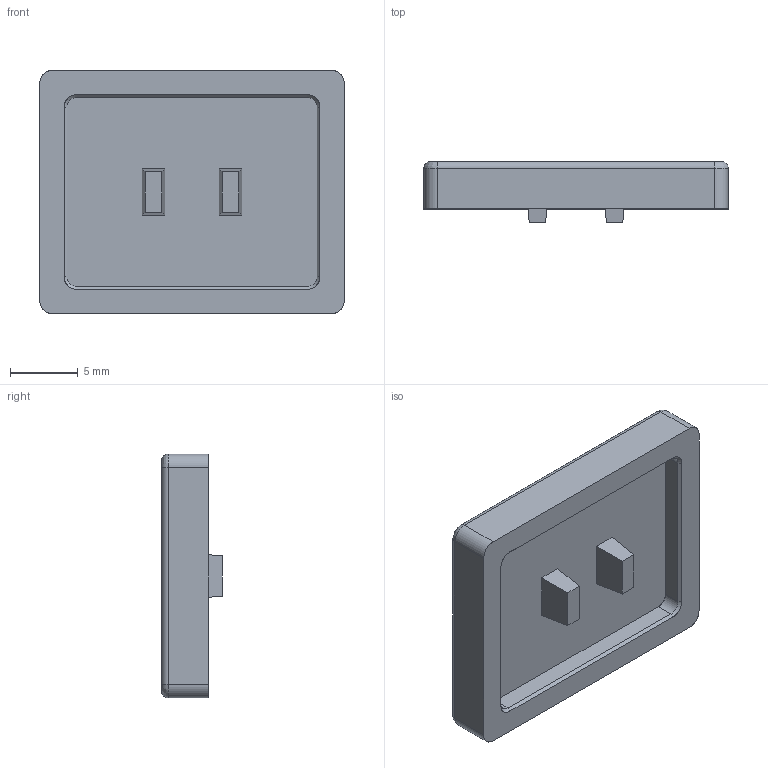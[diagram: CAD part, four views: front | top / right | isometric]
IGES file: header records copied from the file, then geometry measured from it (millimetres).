
Start section: SolidWorks IGES file using analytic representation for surfaces
Global section: file name: G:\byScottua\Keyboards\Kailh\1.25x1.IGS; native system: SolidWorks 2018; preprocessor: SolidWorks 2018; author: PHFHXE; date: 200324.122132; units: millimetre
Bounding box: 22.5 x 4.5 x 18 mm (x, y, z)
Surface area: 1200.3 mm2 (no closed solid volume)
Topology: 0 solids, 0 shells, 56 faces, 527 edges, 527 vertices
Faces by surface type: bspline 40, revolution 16
